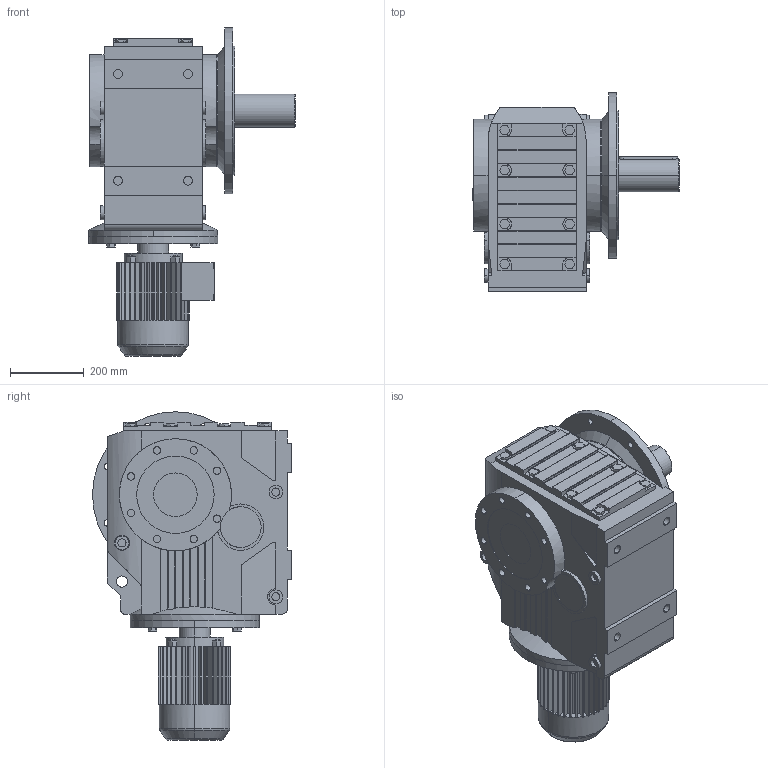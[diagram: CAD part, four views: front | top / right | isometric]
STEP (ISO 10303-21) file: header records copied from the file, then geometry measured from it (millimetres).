
FILE_DESCRIPTION(('Open CASCADE Model'),'2;1');
FILE_NAME('Open CASCADE Shape Model','2018-09-13T11:14:26',('Author'),( 'Open CASCADE'),'Open CASCADE STEP processor 6.3','Open CASCADE 6.3' ,'Unknown');
FILE_SCHEMA(('AUTOMOTIVE_DESIGN_CC2 { 1 2 10303 214 -1 1 5 4 }'));
Length unit declared in the file: millimetre
Products named in the file (5): 49_KF107DV100L-A; KA37‵107_107.step; 萇儂_350-DV100L-325-410-197-166.step; す瑩妗陑粣K_107.step; 楊擘K_107.step
Assembly tree (4 placements, depth 2):
  49_KF107DV100L-A
    KA37‵107_107.step
    萇儂_350-DV100L-325-410-197-166.step
    す瑩妗陑粣K_107.step
    楊擘K_107.step
Bounding box: 561 x 540 x 891 mm (x, y, z)
Volume: 84347738.4 mm3; surface area: 2519364.1 mm2
Topology: 4 solids, 4 shells, 890 faces, 2310 edges, 1501 vertices
Faces by surface type: plane 561, cylinder 309, cone 16, torus 4
Entity records: 67856 total; most frequent: CARTESIAN_POINT 24597, DIRECTION 7229, ORIENTED_EDGE 4616, PCURVE 4616, DEFINITIONAL_REPRESENTATION 4616, LINE 3656, VECTOR 3656, EDGE_CURVE 2308
